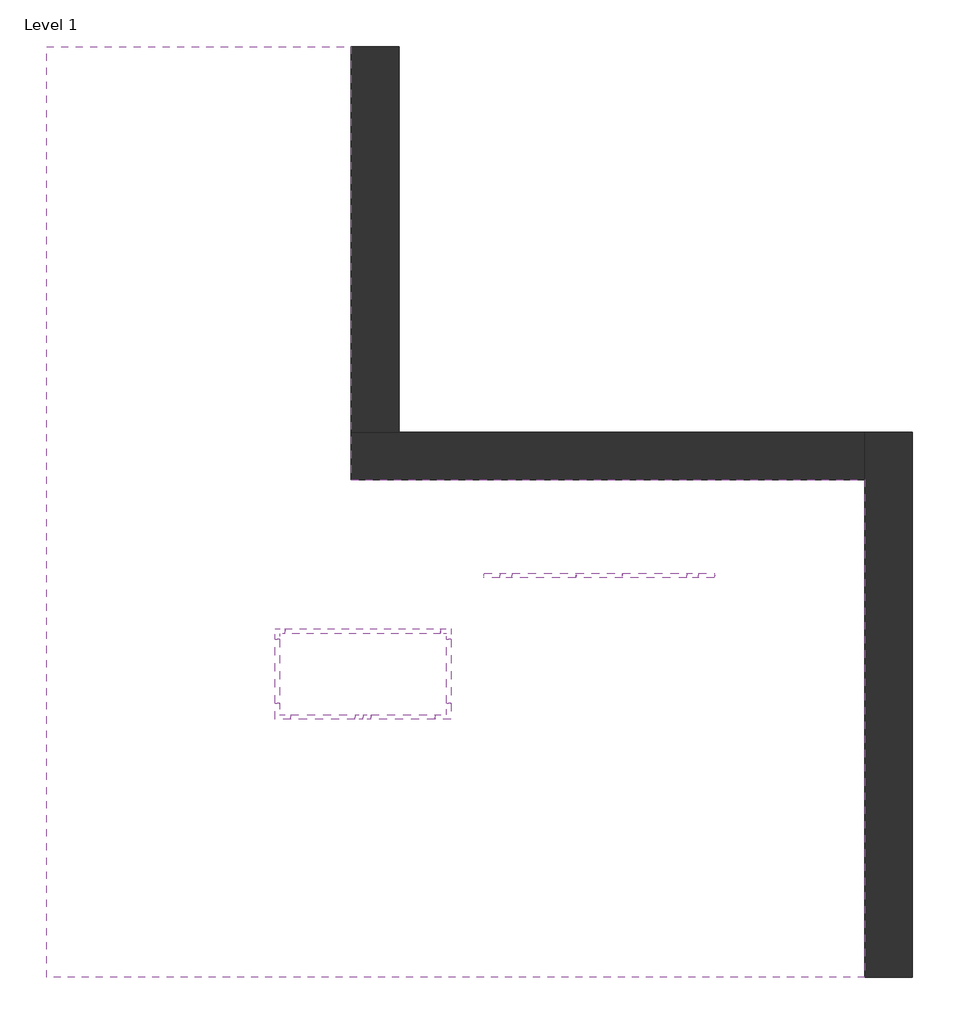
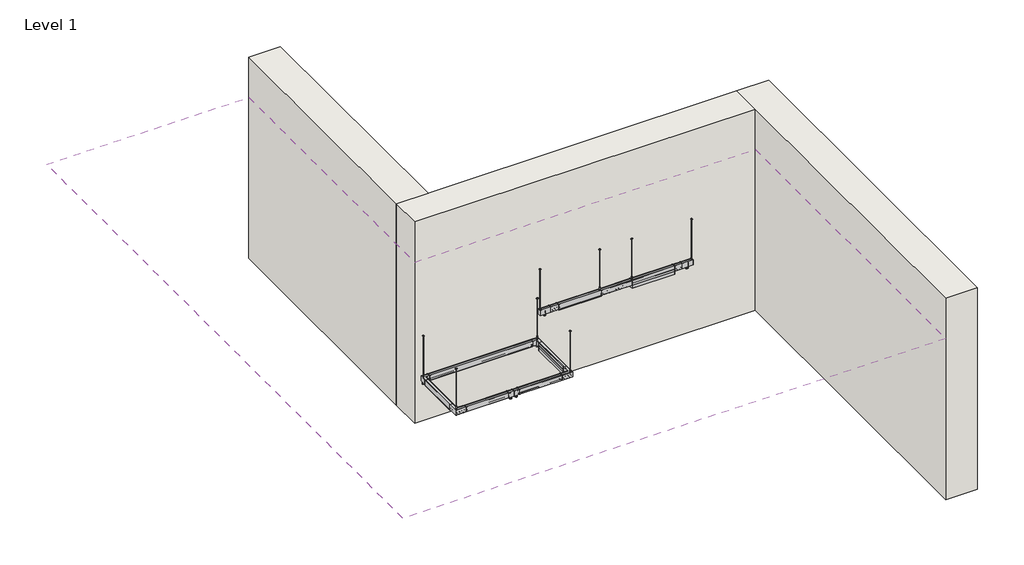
# One storey: 18 light fixtures, 3 walls, 1 covering.
"""IFC4 building model written with IfcOpenShell, lengths in millimetres."""

from ifc_helpers import new_model, si_unit, frame, origin, origin_with_axes, place, context, project, spatial, polyline, outline, extrude, faceted_brep, transform, mapped, element, save
from components import custom_30a6e671, custom_f251745e, custom_e5362112, custom_b0c51f44, custom_c07f768b, custom_45ceae2b, custom_95516761, custom_41f16287, custom_0be98615, custom_14597277, custom_3c175da8, custom_6c2c77e1, custom_a9658999, custom_756293e9, custom_94ebbfc2, custom_079cd70d, custom_b8e7a73b

model = new_model("IFC4")

# Units and contexts
model_context = context("Model", 3, world=origin())
ifc_project = project(units=[si_unit("LENGTHUNIT", "METRE", prefix="MILLI")], contexts=[model_context])

# Site, building, storey
site = spatial("IfcSite", under=ifc_project)
building = spatial("IfcBuilding", under=site)
storey = spatial("IfcBuildingStorey", under=building, Name="Level 1", Elevation=0.0)

# Covering
placement = place(None, origin())
element("IfcCovering", 1, ObjectType="2' x 4' ACT System", at=placement, inside=storey, context=model_context, shape_type="SweptSolid", body=[
    extrude(outline(polyline([(-1169.9199774, 10397.9270347), (-1169.9199774, 6283.1270347), (3706.8800226, 6283.1270347), (3706.8800226, 1558.7270347), (-4065.5199774, 1558.7270347), (-4065.5199774, 10397.9270347), (-1169.9199774, 10397.9270347)])), frame((0.0, 0.0, 2438.4), z_axis=(0.0, 0.0, 1.0), x_axis=(1.0, 0.0, 0.0)), (0.0, 0.0, 1.0), 57.15),
])

# Light fixtures
custom_shape = custom_30a6e671(model_context)
element("IfcLightFixture", 2, ObjectType="Lighting-Pendant-Axis-Sculpt-Linear-Accent : Custom", at=placement, inside=storey, context=model_context, shape_type="MappedRepresentation", body=[
    mapped(custom_shape, transform((2203.0054069, 5375.3336027, 2438.4), x_axis=(1.0, 0.0, 0.0), y_axis=(0.0, -1.0, 0.0), z_axis=(0.0, 0.0, -1.0))),
])
custom_2_shape = custom_f251745e(model_context)
element("IfcLightFixture", 3, ObjectType="Lighting-Pendant-Axis-Sculpt-Linear-MikroLite : Custom", at=placement, inside=storey, context=model_context, shape_type="MappedRepresentation", body=[
    mapped(custom_2_shape, transform((2071.5604069, 5375.3336027, 2438.4), x_axis=(1.0, 0.0, 0.0), y_axis=(0.0, -1.0, 0.0), z_axis=(0.0, 0.0, -1.0))),
])
element("IfcLightFixture", 4, ObjectType="Lighting-Pendant-Axis-Sculpt-Linear-MikroLite : Custom", at=placement, inside=storey, context=model_context, shape_type="MappedRepresentation", body=[
    mapped(custom_2_shape, transform((299.9104069, 5375.3336027, 2438.4), x_axis=(1.0, 0.0, 0.0), y_axis=(0.0, -1.0, 0.0), z_axis=(0.0, 0.0, -1.0))),
])
custom_3_shape = custom_e5362112(model_context)
custom_4_shape = custom_b0c51f44(model_context)
element("IfcLightFixture", 5, ObjectType="Lighting-Pendant-Axis-Sculpt-Linear-MikroLite : Custom", at=placement, inside=storey, context=model_context, shape_type="MappedRepresentation", body=[
    mapped(custom_3_shape, transform((1185.7354069, 5375.3336027, 2438.4), x_axis=(1.0, 0.0, 0.0), y_axis=(0.0, -1.0, 0.0), z_axis=(0.0, 0.0, -1.0))),
    mapped(custom_4_shape, transform((1185.7354069, 5375.3336027, 2438.4), x_axis=(1.0, 0.0, 0.0), y_axis=(0.0, -1.0, 0.0), z_axis=(0.0, 0.0, -1.0))),
])
custom_5_shape = custom_c07f768b(model_context)
element("IfcLightFixture", 6, ObjectType="Lighting-Pendant-Axis-Sculpt-Linear-Direct : Custom", at=placement, inside=storey, context=model_context, shape_type="MappedRepresentation", body=[
    mapped(custom_5_shape, transform((1711.5154069, 5375.3336027, 2438.4), x_axis=(1.0, 0.0, 0.0), y_axis=(0.0, -1.0, 0.0), z_axis=(0.0, 0.0, -1.0))),
])
custom_6_shape = custom_45ceae2b(model_context)
element("IfcLightFixture", 7, ObjectType="Lighting-Pendant-Axis-Sculpt-Linear-Accent : Custom", at=placement, inside=storey, context=model_context, shape_type="MappedRepresentation", body=[
    mapped(custom_6_shape, transform((168.4654069, 5375.3336027, 2438.4), x_axis=(1.0, 0.0, 0.0), y_axis=(0.0, -1.0, 0.0), z_axis=(0.0, 0.0, -1.0))),
])
custom_7_shape = custom_95516761(model_context)
element("IfcLightFixture", 8, ObjectType="Lighting-Pendant-Axis-Sculpt-Linear-Direct : Custom", at=placement, inside=storey, context=model_context, shape_type="MappedRepresentation", body=[
    mapped(custom_7_shape, transform((659.9554069, 5375.3336027, 2438.4), x_axis=(1.0, 0.0, 0.0), y_axis=(0.0, -1.0, 0.0), z_axis=(0.0, 0.0, -1.0))),
])
custom_8_shape = custom_41f16287(model_context)
custom_9_shape = custom_0be98615(model_context)
custom_10_shape = custom_14597277(model_context)
element("IfcLightFixture", 9, ObjectType="Lighting-Pendant-Axis-Sculpt-Corner-MikroLite : Custom", at=placement, inside=storey, context=model_context, shape_type="MappedRepresentation", body=[
    mapped(custom_8_shape, transform((-244.1279651, 4031.4114609, 2438.4), x_axis=(1.0, 0.0, 0.0), y_axis=(0.0, -1.0, 0.0), z_axis=(0.0, 0.0, -1.0))),
    mapped(custom_9_shape, transform((-244.1279651, 4031.4114609, 2438.4), x_axis=(1.0, 0.0, 0.0), y_axis=(0.0, -1.0, 0.0), z_axis=(0.0, 0.0, -1.0))),
    mapped(custom_10_shape, transform((-244.1279651, 4031.4114609, 2438.4), x_axis=(1.0, 0.0, 0.0), y_axis=(0.0, -1.0, 0.0), z_axis=(0.0, 0.0, -1.0))),
])
element("IfcLightFixture", 10, ObjectType="Lighting-Pendant-Axis-Sculpt-Corner-MikroLite : Custom", at=placement, inside=storey, context=model_context, shape_type="MappedRepresentation", body=[
    mapped(custom_8_shape, transform((-1873.5379651, 4031.4114609, 2438.4), x_axis=(0.0, -1.0, 0.0), y_axis=(-1.0, 0.0, 0.0), z_axis=(0.0, 0.0, -1.0))),
    mapped(custom_9_shape, transform((-1873.5379651, 4031.4114609, 2438.4), x_axis=(0.0, -1.0, 0.0), y_axis=(-1.0, 0.0, 0.0), z_axis=(0.0, 0.0, -1.0))),
    mapped(custom_10_shape, transform((-1873.5379651, 4031.4114609, 2438.4), x_axis=(0.0, -1.0, 0.0), y_axis=(-1.0, 0.0, 0.0), z_axis=(0.0, 0.0, -1.0))),
])
custom_11_shape = custom_3c175da8(model_context)
element("IfcLightFixture", 11, ObjectType="Lighting-Pendant-Axis-Sculpt-Linear-Wall_Wash : Custom", at=placement, inside=storey, context=model_context, shape_type="MappedRepresentation", body=[
    mapped(custom_11_shape, transform((-677.8329651, 4031.4114609, 2438.4), x_axis=(1.0, 0.0, 0.0), y_axis=(0.0, -1.0, 0.0), z_axis=(0.0, 0.0, -1.0))),
])
custom_12_shape = custom_6c2c77e1(model_context)
element("IfcLightFixture", 12, ObjectType="Lighting-Pendant-Axis-Sculpt-Linear-Accent : Custom", at=placement, inside=storey, context=model_context, shape_type="MappedRepresentation", body=[
    mapped(custom_12_shape, transform((-1096.9329651, 4031.4114609, 2438.4), x_axis=(1.0, 0.0, 0.0), y_axis=(0.0, -1.0, 0.0), z_axis=(0.0, 0.0, -1.0))),
])
element("IfcLightFixture", 13, ObjectType="Lighting-Pendant-Axis-Sculpt-Linear-Accent : Custom", at=placement, inside=storey, context=model_context, shape_type="MappedRepresentation", body=[
    mapped(custom_12_shape, transform((-1020.7329651, 4031.4114609, 2438.4), x_axis=(1.0, 0.0, 0.0), y_axis=(0.0, -1.0, 0.0), z_axis=(0.0, 0.0, -1.0))),
])
custom_13_shape = custom_a9658999(model_context)
element("IfcLightFixture", 14, ObjectType="Lighting-Pendant-Axis-Sculpt-Linear-Direct : Custom", at=placement, inside=storey, context=model_context, shape_type="MappedRepresentation", body=[
    mapped(custom_13_shape, transform((-1439.8329651, 4031.4114609, 2438.4), x_axis=(1.0, 0.0, 0.0), y_axis=(0.0, -1.0, 0.0), z_axis=(0.0, 0.0, -1.0))),
])
custom_14_shape = custom_756293e9(model_context)
element("IfcLightFixture", 15, ObjectType="Lighting-Pendant-Axis-Sculpt-Linear-Direct : Custom", at=placement, inside=storey, context=model_context, shape_type="MappedRepresentation", body=[
    mapped(custom_14_shape, transform((-1873.5379651, 4465.1164609, 2438.4), x_axis=(0.0, -1.0, 0.0), y_axis=(-1.0, 0.0, 0.0), z_axis=(0.0, 0.0, -1.0))),
])
custom_15_shape = custom_94ebbfc2(model_context)
element("IfcLightFixture", 16, ObjectType="Lighting-Pendant-Axis-Sculpt-Corner-Accent : Custom", at=placement, inside=storey, context=model_context, shape_type="MappedRepresentation", body=[
    mapped(custom_15_shape, transform((-1873.5379651, 4846.1164609, 2438.4), x_axis=(-1.0, 0.0, 0.0), y_axis=(0.0, 1.0, 0.0), z_axis=(0.0, 0.0, -1.0))),
])
element("IfcLightFixture", 17, ObjectType="Lighting-Pendant-Axis-Sculpt-Corner-Accent : Custom", at=placement, inside=storey, context=model_context, shape_type="MappedRepresentation", body=[
    mapped(custom_15_shape, transform((-244.1279651, 4846.1164609, 2438.4), x_axis=(0.0, 1.0, 0.0), y_axis=(1.0, 0.0, 0.0), z_axis=(0.0, 0.0, -1.0))),
])
custom_16_shape = custom_079cd70d(model_context)
element("IfcLightFixture", 18, ObjectType="Lighting-Pendant-Axis-Sculpt-Linear-Wall_Wash : Custom", at=placement, inside=storey, context=model_context, shape_type="MappedRepresentation", body=[
    mapped(custom_16_shape, transform((-1058.8329651, 4846.1164609, 2438.4), x_axis=(1.0, 0.0, 0.0), y_axis=(0.0, -1.0, 0.0), z_axis=(0.0, 0.0, -1.0))),
])
custom_17_shape = custom_b8e7a73b(model_context)
element("IfcLightFixture", 19, ObjectType="Lighting-Pendant-Axis-Sculpt-Linear-Direct : Custom", at=placement, inside=storey, context=model_context, shape_type="MappedRepresentation", body=[
    mapped(custom_17_shape, transform((-244.1279651, 4465.1164609, 2438.4), x_axis=(0.0, -1.0, 0.0), y_axis=(-1.0, 0.0, 0.0), z_axis=(0.0, 0.0, -1.0))),
])

# Walls
element("IfcWall", 20, ObjectType="Exterior - CMU on Mtl. Stud", at=placement, inside=storey, context=model_context, shape_type="Brep", body=[
    faceted_brep([(4160.9050226, 1558.7270347, 0.0), (4160.9050226, 6737.1520347, 0.0), (4160.9050226, 6737.1520347, 3048.0), (4160.9050226, 1558.7270347, 3048.0), (3706.8800226, 1558.7270347, 0.0), (3706.8800226, 1558.7270347, 3048.0), (3706.8800226, 6283.1270347, 3048.0), (3706.8800226, 6737.1520347, 3048.0), (3706.8800226, 6737.1520347, 0.0), (3706.8800226, 6283.1270347, 0.0)], [[[0, 1, 2, 3]], [[4, 5, 6, 7, 8, 9]], [[1, 0, 4, 9, 8]], [[3, 2, 7, 6, 5]], [[0, 3, 5, 4]], [[2, 1, 8, 7]]]),
])
element("IfcWall", 21, ObjectType="Exterior - CMU on Mtl. Stud", at=placement, inside=storey, context=model_context, shape_type="Brep", body=[
    faceted_brep([(3706.8800226, 6737.1520347, 0.0), (-715.8949774, 6737.1520347, 0.0), (-1169.9199774, 6737.1520347, 0.0), (-1169.9199774, 6737.1520347, 3048.0), (-715.8949774, 6737.1520347, 3048.0), (3706.8800226, 6737.1520347, 3048.0), (3706.8800226, 6283.1270347, 0.0), (3706.8800226, 6283.1270347, 3048.0), (-1169.9199774, 6283.1270347, 3048.0), (-1169.9199774, 6283.1270347, 0.0)], [[[0, 1, 2, 3, 4, 5]], [[6, 7, 8, 9]], [[2, 1, 0, 6, 9]], [[5, 4, 3, 8, 7]], [[0, 5, 7, 6]], [[3, 2, 9, 8]]]),
])
element("IfcWall", 22, ObjectType="Exterior - CMU on Mtl. Stud", at=placement, inside=storey, context=model_context, shape_type="SweptSolid", body=[
    extrude(outline(polyline([(-715.8949774, 10397.9270347), (-715.8949774, 6737.1520347), (-1169.9199774, 6737.1520347), (-1169.9199774, 10397.9270347), (-715.8949774, 10397.9270347)])), origin_with_axes(), (0.0, 0.0, 1.0), 3048.0),
])

save(model, "model.ifc")
